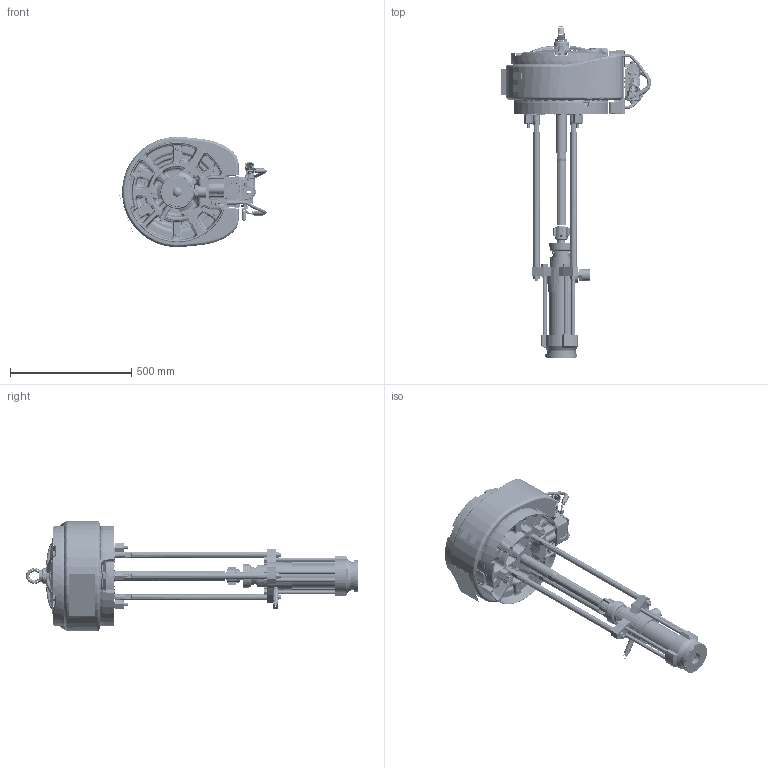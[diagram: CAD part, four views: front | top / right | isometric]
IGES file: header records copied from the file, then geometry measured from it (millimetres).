
Start section:  PTC IGES file: p47lcs-en-e.igs
Global section: file name: p47lcs-en-e.igs; native system: Creo Parametric by PTC Inc.; preprocessor: 2019030; author: qusrh3; organization: Unknown; date: 20200528.135429; units: inch
Bounding box: 615.5 x 1366.39 x 454.59 mm (x, y, z)
Surface area: 3687344.4 mm2 (no closed solid volume)
Topology: 0 solids, 0 shells, 4142 faces, 23211 edges, 23205 vertices
Faces by surface type: revolution 2086, bspline 2052, extrusion 4
